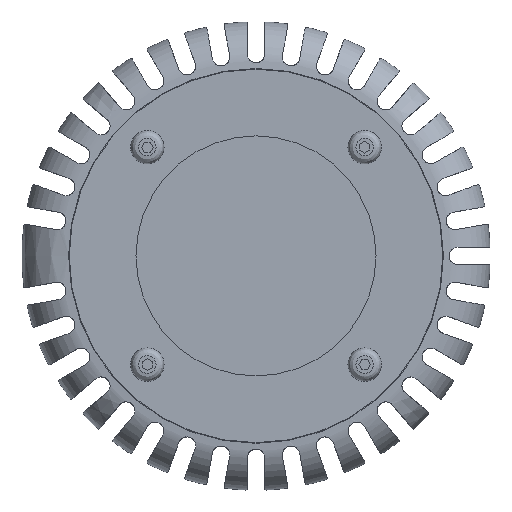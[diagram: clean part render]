
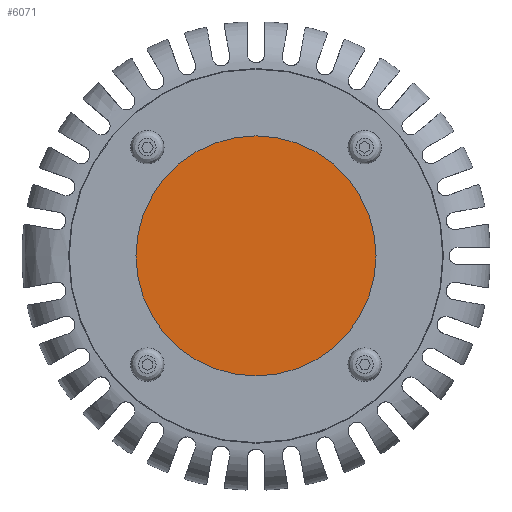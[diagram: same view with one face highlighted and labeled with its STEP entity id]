
A CAD part, top view. The second image highlights one B-rep face of the part: STEP entity #6071.
In plain terms, the highlighted planar face has unit normal (0, 0, 1).
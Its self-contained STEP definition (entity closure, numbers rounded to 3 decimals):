
#468=PLANE('',#6610);
#774=FACE_OUTER_BOUND('',#1113,.T.);
#1113=EDGE_LOOP('',(#5472,#5473,#5474,#5475));
#1578=LINE('',#14227,#2067);
#2067=VECTOR('',#8019,20.967);
#2321=CIRCLE('',#6611,20.967);
#2322=CIRCLE('',#6612,20.967);
#2895=VERTEX_POINT('',#14225);
#2896=VERTEX_POINT('',#14226);
#2897=VERTEX_POINT('',#14228);
#3766=EDGE_CURVE('',#2895,#2896,#1578,.T.);
#3767=EDGE_CURVE('',#2897,#2895,#2321,.T.);
#3768=EDGE_CURVE('',#2895,#2897,#2322,.T.);
#5472=ORIENTED_EDGE('',*,*,#3766,.T.);
#5473=ORIENTED_EDGE('',*,*,#3766,.F.);
#5474=ORIENTED_EDGE('',*,*,#3767,.F.);
#5475=ORIENTED_EDGE('',*,*,#3768,.F.);
#6071=ADVANCED_FACE('',(#774),#468,.T.);
#6610=AXIS2_PLACEMENT_3D('',#14224,#8017,#8018);
#6611=AXIS2_PLACEMENT_3D('',#14229,#8020,#8021);
#6612=AXIS2_PLACEMENT_3D('',#14230,#8022,#8023);
#8017=DIRECTION('center_axis',(0.,0.,
1.));
#8018=DIRECTION('ref_axis',(1.,0.,0.));
#8019=DIRECTION('',(-1.,0.,0.));
#8020=DIRECTION('center_axis',(0.,0.,
-1.));
#8021=DIRECTION('ref_axis',(0.814,0.581,0.));
#8022=DIRECTION('center_axis',(0.,0.,
-1.));
#8023=DIRECTION('ref_axis',(0.814,0.581,0.));
#14224=CARTESIAN_POINT('Origin',(64.426,1411.107,10.5));
#14225=CARTESIAN_POINT('',(74.91,1411.107,10.5));
#14226=CARTESIAN_POINT('',(53.943,1411.107,10.5));
#14227=CARTESIAN_POINT('',(74.91,1411.107,10.5));
#14228=CARTESIAN_POINT('',(32.976,1411.107,10.5));
#14229=CARTESIAN_POINT('Origin',(53.943,1411.107,10.5));
#14230=CARTESIAN_POINT('Origin',(53.943,1411.107,10.5));
